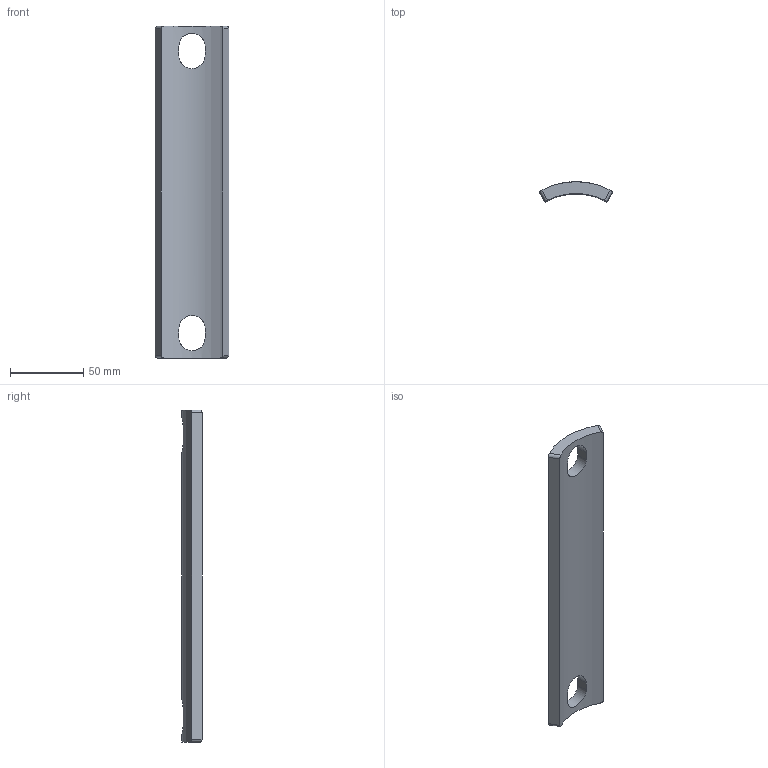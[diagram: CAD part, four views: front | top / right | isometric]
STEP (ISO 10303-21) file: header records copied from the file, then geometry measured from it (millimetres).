
FILE_DESCRIPTION(/* description */ ('Верхний валик. Труба 100х8'),/* implementation_level */ '2;1');
FILE_NAME(/* name */ 'D:\Work\ОП ДЕЛО\Деложим 110 изм 3\Деталировка\2. Верхний валик\3D Model. Верхний валик. Труба 100х8.stp',/* time_stamp */ '2025-04-16T12:40:02+04:00',/* author */ ('Администратор'),/* organization */ (''),/* preprocessor_version */ 'ST-DEVELOPER v17.2',/* originating_system */ 'Autodesk Inventor 2019',/* authorisation */ '');
FILE_SCHEMA (('CONFIG_CONTROL_DESIGN'));
Length unit declared in the file: millimetre
Products named in the file (1): ПД-110.02.00.003
Bounding box: 50 x 13.63 x 226 mm (x, y, z)
Volume: 81235.5 mm3; surface area: 25777.7 mm2
Topology: 1 solids, 1 shells, 18 faces, 52 edges, 36 vertices
Faces by surface type: cylinder 10, plane 8
Entity records: 813 total; most frequent: CARTESIAN_POINT 319, ORIENTED_EDGE 104, DIRECTION 74, EDGE_CURVE 52, VERTEX_POINT 36, LINE 28, VECTOR 28, AXIS2_PLACEMENT_3D 23
